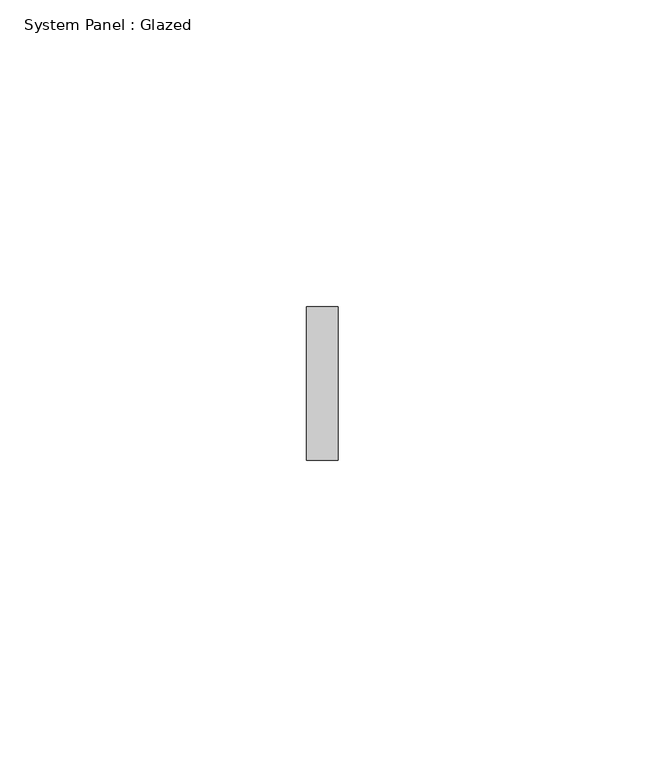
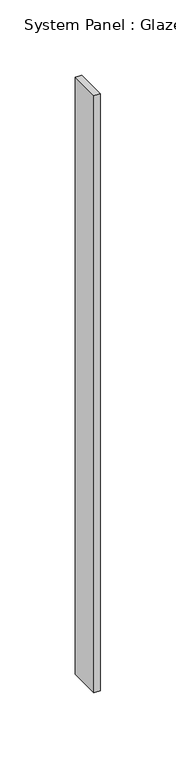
"""IFC4 building model written with IfcOpenShell, lengths in millimetres: plate geometry, System Panel : Glazed."""

from ifc_helpers import new_model, si_unit, origin, origin_with_axes, place, context, project, spatial, polyline, outline, extrude, source, transform, mapped, element, save


def system_panel_glazed_49ce6051(model_context):
    return source(origin(), model_context, "Body", "SweptSolid", [
        extrude(outline(polyline([(2.5331169, -12.5), (-2.5331169, -12.5), (-2.5331169, 12.5), (2.5331169, 12.5), (2.5331169, -12.5)])), origin_with_axes(), (0.0, 0.0, 1.0), 485.0),
    ])


if __name__ == "__main__":
    model = new_model("IFC4")
    model_context = context("Model", 3, world=origin())
    ifc_project = project(units=[si_unit("LENGTHUNIT", "METRE", prefix="MILLI")], contexts=[model_context])
    site = spatial("IfcSite", under=ifc_project)
    building = spatial("IfcBuilding", under=site)
    placement = place(None, origin())
    system_panel_glazed_shape = system_panel_glazed_49ce6051(model_context)
    element("IfcPlate", 1, ObjectType="System Panel : Glazed", at=placement, inside=building, context=model_context, shape_type="MappedRepresentation", body=[
        mapped(system_panel_glazed_shape, transform((0.0, 0.0, 0.0), x_axis=(1.0, 0.0, 0.0), y_axis=(0.0, 1.0, 0.0), z_axis=(0.0, 0.0, 1.0))),
    ])
    save(model, "model.ifc")
